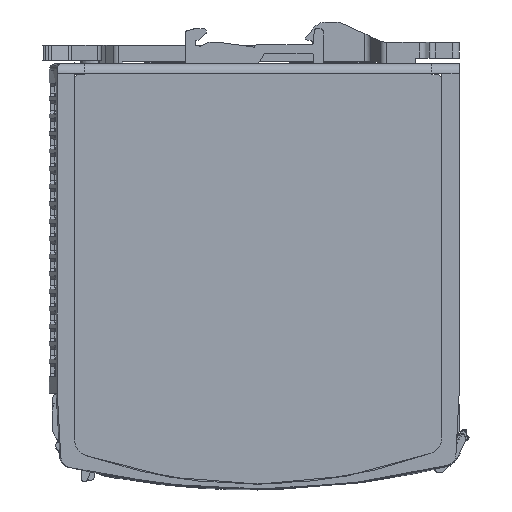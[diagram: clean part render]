
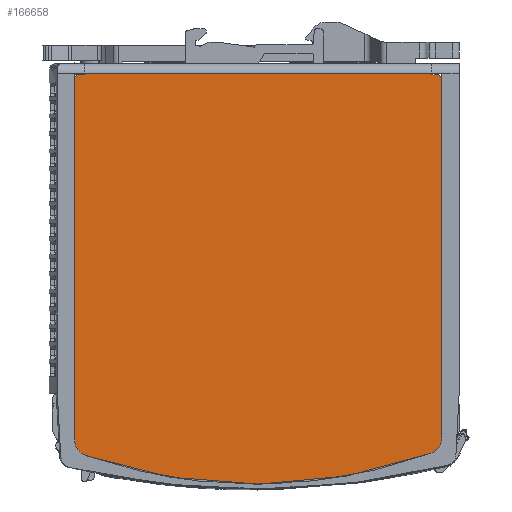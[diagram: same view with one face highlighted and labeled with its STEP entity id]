
A CAD part, left-side view. The second image highlights one B-rep face of the part: STEP entity #166658.
In plain terms, the highlighted planar face has unit normal (-1, 0, 0).
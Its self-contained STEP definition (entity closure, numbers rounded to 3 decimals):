
#3683 = EDGE_CURVE ( 'NONE', #153496, #19757, #60970, .T. ) ;
#5684 = CARTESIAN_POINT ( 'NONE',  ( -24.5, 6.75, -3. ) ) ;
#8263 = DIRECTION ( 'NONE',  ( 0., 0., 1. ) ) ;
#8682 = DIRECTION ( 'NONE',  ( 0., 0.707, 0.707 ) ) ;
#9460 = VECTOR ( 'NONE', #31317, 1000. ) ;
#10773 = EDGE_CURVE ( 'NONE', #145899, #73096, #171839, .T. ) ;
#13241 = CARTESIAN_POINT ( 'NONE',  ( -24.5, 111.769, -3. ) ) ;
#15762 = CARTESIAN_POINT ( 'NONE',  ( -24.5, 114.85, -117.37 ) ) ;
#16188 = ORIENTED_EDGE ( 'NONE', *, *, #43040, .T. ) ;
#17037 = LINE ( 'NONE', #95333, #98051 ) ;
#18573 = AXIS2_PLACEMENT_3D ( 'NONE', #58248, #43324, #18628 ) ;
#18628 = DIRECTION ( 'NONE',  ( 0., 0., -1. ) ) ;
#19199 = DIRECTION ( 'NONE',  ( 0., 0., -1. ) ) ;
#19757 = VERTEX_POINT ( 'NONE', #87316 ) ;
#20323 = CARTESIAN_POINT ( 'NONE',  ( -24.5, 109.85, -113.86 ) ) ;
#22334 = CARTESIAN_POINT ( 'NONE',  ( -24.5, 111.769, -3.3 ) ) ;
#22851 = DIRECTION ( 'NONE',  ( 0., 0., 1. ) ) ;
#27032 = CIRCLE ( 'NONE', #18573, 5. ) ;
#28090 = AXIS2_PLACEMENT_3D ( 'NONE', #20323, #102132, #37019 ) ;
#28972 = VERTEX_POINT ( 'NONE', #62335 ) ;
#30339 = EDGE_CURVE ( 'NONE', #28972, #122523, #104848, .T. ) ;
#31317 = DIRECTION ( 'NONE',  ( 0., 0., 1. ) ) ;
#33773 = CARTESIAN_POINT ( 'NONE',  ( -24.5, 4.75, -3.3 ) ) ;
#34039 = DIRECTION ( 'NONE',  ( 1., 0., 0. ) ) ;
#35189 = DIRECTION ( 'NONE',  ( 1., 0., 0. ) ) ;
#36726 = EDGE_CURVE ( 'NONE', #75082, #137037, #43888, .T. ) ;
#37019 = DIRECTION ( 'NONE',  ( 0., 0., -1. ) ) ;
#40121 = LINE ( 'NONE', #80555, #170856 ) ;
#43040 = EDGE_CURVE ( 'NONE', #166430, #75082, #17037, .T. ) ;
#43058 = AXIS2_PLACEMENT_3D ( 'NONE', #129024, #34039, #87667 ) ;
#43324 = DIRECTION ( 'NONE',  ( 1., 0., 0. ) ) ;
#43888 = LINE ( 'NONE', #15762, #78634 ) ;
#44148 = ORIENTED_EDGE ( 'NONE', *, *, #153715, .F. ) ;
#48656 = CARTESIAN_POINT ( 'NONE',  ( -24.5, 111.769, -3.3 ) ) ;
#50531 = EDGE_LOOP ( 'NONE', ( #112020, #139111, #159997, #162880, #151435, #81460, #44148, #16188, #164772, #117911, #159248, #54725, #96004 ) ) ;
#54725 = ORIENTED_EDGE ( 'NONE', *, *, #150024, .F. ) ;
#54926 = DIRECTION ( 'NONE',  ( 0., 0.707, -0.707 ) ) ;
#56818 = VECTOR ( 'NONE', #87272, 1000. ) ;
#58248 = CARTESIAN_POINT ( 'NONE',  ( -24.5, 8.75, -113.237 ) ) ;
#59103 = VECTOR ( 'NONE', #8263, 1000. ) ;
#60118 = LINE ( 'NONE', #164774, #78116 ) ;
#60970 = LINE ( 'NONE', #155952, #122009 ) ;
#61013 = CIRCLE ( 'NONE', #159345, 156. ) ;
#62335 = CARTESIAN_POINT ( 'NONE',  ( -24.5, 60.177, -127.264 ) ) ;
#63916 = VECTOR ( 'NONE', #8682, 1000. ) ;
#68047 = CARTESIAN_POINT ( 'NONE',  ( -24.5, 114.85, -113.86 ) ) ;
#73096 = VERTEX_POINT ( 'NONE', #13241 ) ;
#73494 = CARTESIAN_POINT ( 'NONE',  ( -24.5, 114.85, -4.3 ) ) ;
#75082 = VERTEX_POINT ( 'NONE', #73494 ) ;
#75779 = CIRCLE ( 'NONE', #28090, 5. ) ;
#77963 = DIRECTION ( 'NONE',  ( 0., -1., 0. ) ) ;
#78116 = VECTOR ( 'NONE', #100529, 1000. ) ;
#78634 = VECTOR ( 'NONE', #19199, 1000. ) ;
#80555 = CARTESIAN_POINT ( 'NONE',  ( -24.5, 0., -3.3 ) ) ;
#81460 = ORIENTED_EDGE ( 'NONE', *, *, #10773, .F. ) ;
#87272 = DIRECTION ( 'NONE',  ( 0., -1., 0. ) ) ;
#87316 = CARTESIAN_POINT ( 'NONE',  ( -24.5, 3.75, -113.237 ) ) ;
#87667 = DIRECTION ( 'NONE',  ( 0., 0., -1. ) ) ;
#95333 = CARTESIAN_POINT ( 'NONE',  ( -24.5, 113.85, -3.3 ) ) ;
#96004 = ORIENTED_EDGE ( 'NONE', *, *, #148162, .F. ) ;
#98051 = VECTOR ( 'NONE', #54926, 1000. ) ;
#100529 = DIRECTION ( 'NONE',  ( 0., -1., 0. ) ) ;
#102132 = DIRECTION ( 'NONE',  ( 1., 0., 0. ) ) ;
#102794 = CARTESIAN_POINT ( 'NONE',  ( -24.5, 60.177, 28.736 ) ) ;
#103682 = CARTESIAN_POINT ( 'NONE',  ( -24.5, 3.75, -4.3 ) ) ;
#103761 = FACE_OUTER_BOUND ( 'NONE', #50531, .T. ) ;
#104848 = CIRCLE ( 'NONE', #43058, 156. ) ;
#109434 = AXIS2_PLACEMENT_3D ( 'NONE', #153933, #35189, #22851 ) ;
#112020 = ORIENTED_EDGE ( 'NONE', *, *, #3683, .F. ) ;
#113974 = LINE ( 'NONE', #141222, #9460 ) ;
#117727 = EDGE_CURVE ( 'NONE', #170790, #150298, #60118, .T. ) ;
#117777 = CARTESIAN_POINT ( 'NONE',  ( -24.5, 7.047, -117.938 ) ) ;
#117911 = ORIENTED_EDGE ( 'NONE', *, *, #164673, .F. ) ;
#122009 = VECTOR ( 'NONE', #156800, 1000. ) ;
#122523 = VERTEX_POINT ( 'NONE', #164655 ) ;
#122995 = VERTEX_POINT ( 'NONE', #117777 ) ;
#128324 = DIRECTION ( 'NONE',  ( 0., 0., -1. ) ) ;
#129024 = CARTESIAN_POINT ( 'NONE',  ( -24.5, 60.177, 28.736 ) ) ;
#129195 = CARTESIAN_POINT ( 'NONE',  ( -24.5, 4.75, -3.3 ) ) ;
#130946 = LINE ( 'NONE', #129195, #63916 ) ;
#137037 = VERTEX_POINT ( 'NONE', #68047 ) ;
#138384 = LINE ( 'NONE', #140079, #56818 ) ;
#139111 = ORIENTED_EDGE ( 'NONE', *, *, #150128, .T. ) ;
#140079 = CARTESIAN_POINT ( 'NONE',  ( -24.5, 0., -3. ) ) ;
#141222 = CARTESIAN_POINT ( 'NONE',  ( -24.5, 6.75, -3.3 ) ) ;
#143355 = PLANE ( 'NONE',  #109434 ) ;
#144725 = EDGE_CURVE ( 'NONE', #170790, #168409, #113974, .T. ) ;
#145899 = VERTEX_POINT ( 'NONE', #48656 ) ;
#148162 = EDGE_CURVE ( 'NONE', #19757, #122995, #27032, .T. ) ;
#148777 = CARTESIAN_POINT ( 'NONE',  ( -24.5, 6.75, -3.3 ) ) ;
#150024 = EDGE_CURVE ( 'NONE', #122995, #28972, #61013, .T. ) ;
#150128 = EDGE_CURVE ( 'NONE', #153496, #150298, #130946, .T. ) ;
#150298 = VERTEX_POINT ( 'NONE', #33773 ) ;
#151435 = ORIENTED_EDGE ( 'NONE', *, *, #170569, .F. ) ;
#153496 = VERTEX_POINT ( 'NONE', #103682 ) ;
#153715 = EDGE_CURVE ( 'NONE', #166430, #145899, #40121, .T. ) ;
#153933 = CARTESIAN_POINT ( 'NONE',  ( -24.5, 0., 0. ) ) ;
#154714 = DIRECTION ( 'NONE',  ( 1., 0., 0. ) ) ;
#155952 = CARTESIAN_POINT ( 'NONE',  ( -24.5, 3.75, -113.237 ) ) ;
#156800 = DIRECTION ( 'NONE',  ( 0., 0., -1. ) ) ;
#159248 = ORIENTED_EDGE ( 'NONE', *, *, #30339, .F. ) ;
#159345 = AXIS2_PLACEMENT_3D ( 'NONE', #102794, #154714, #128324 ) ;
#159997 = ORIENTED_EDGE ( 'NONE', *, *, #117727, .F. ) ;
#162880 = ORIENTED_EDGE ( 'NONE', *, *, #144725, .T. ) ;
#164655 = CARTESIAN_POINT ( 'NONE',  ( -24.5, 111.495, -118.581 ) ) ;
#164673 = EDGE_CURVE ( 'NONE', #122523, #137037, #75779, .T. ) ;
#164772 = ORIENTED_EDGE ( 'NONE', *, *, #36726, .T. ) ;
#164774 = CARTESIAN_POINT ( 'NONE',  ( -24.5, 0., -3.3 ) ) ;
#166430 = VERTEX_POINT ( 'NONE', #169272 ) ;
#166658 = ADVANCED_FACE ( 'NONE', ( #103761 ), #143355, .F. ) ;
#168409 = VERTEX_POINT ( 'NONE', #5684 ) ;
#169272 = CARTESIAN_POINT ( 'NONE',  ( -24.5, 113.85, -3.3 ) ) ;
#170569 = EDGE_CURVE ( 'NONE', #73096, #168409, #138384, .T. ) ;
#170790 = VERTEX_POINT ( 'NONE', #148777 ) ;
#170856 = VECTOR ( 'NONE', #77963, 1000. ) ;
#171839 = LINE ( 'NONE', #22334, #59103 ) ;
